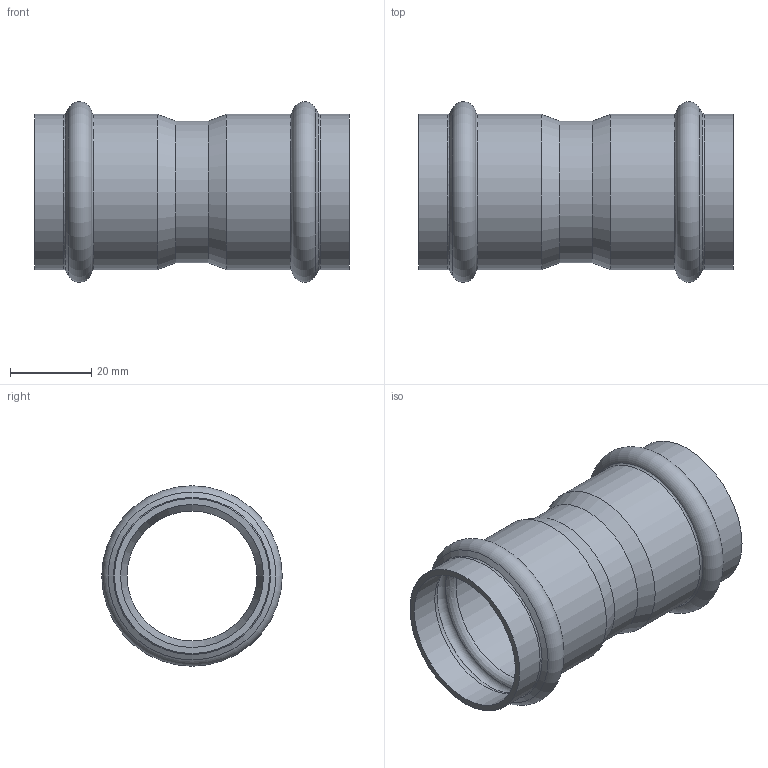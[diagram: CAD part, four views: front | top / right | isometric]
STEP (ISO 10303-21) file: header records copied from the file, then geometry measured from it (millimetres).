
FILE_DESCRIPTION((''),'2;1');
FILE_NAME('G:\Technics\CAD\Bauteile\035\6927035(0).stp','2008-02-28T09:21:45',('herberg'),(''),'Autodesk Inventor 2008','Autodesk Inventor 2008','');
FILE_SCHEMA(('AUTOMOTIVE_DESIGN { 1 0 10303 214 1 1 1 1 }'));
Length unit declared in the file: millimetre
Products named in the file (1): 6927035(0)
Bounding box: 77.5 x 44.5 x 44.5 mm (x, y, z)
Volume: 14705.1 mm3; surface area: 19950.7 mm2
Topology: 1 solids, 1 shells, 32 faces, 66 edges, 36 vertices
Faces by surface type: cylinder 10, cone 8, bspline 8, torus 4, plane 2
Full cylindrical faces by diameter (mm): 32 x1, 35 x1, 35.25 x4, 38.25 x4
Entity records: 994 total; most frequent: CARTESIAN_POINT 449, DIRECTION 114, ORIENTED_EDGE 64, EDGE_LOOP 64, AXIS2_PLACEMENT_3D 57, VERTEX_POINT 32, CIRCLE 32, EDGE_CURVE 32
